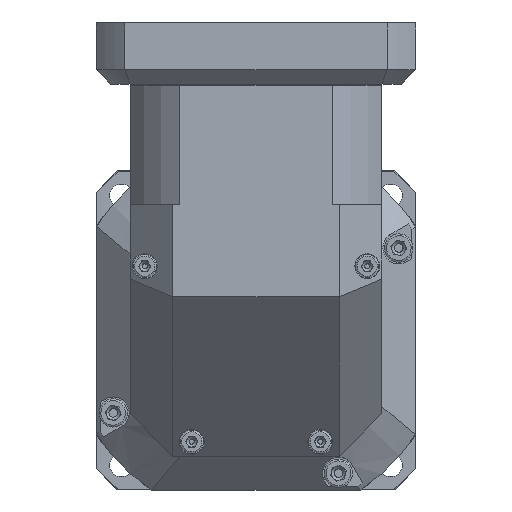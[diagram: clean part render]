
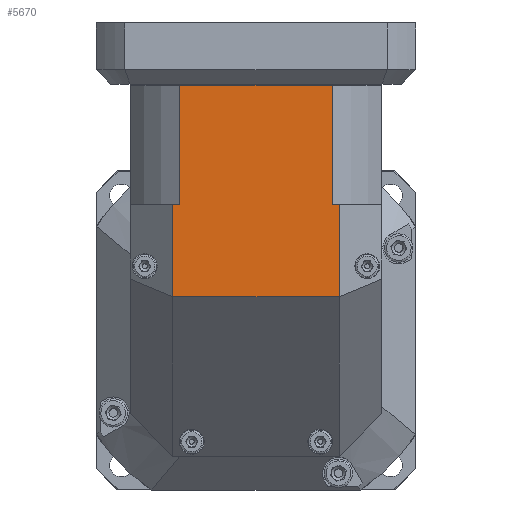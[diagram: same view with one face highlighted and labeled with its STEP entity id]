
A CAD part, front view. The second image highlights one B-rep face of the part: STEP entity #5670.
In plain terms, the highlighted planar face has unit normal (0, -1, 0).
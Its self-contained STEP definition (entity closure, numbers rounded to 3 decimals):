
#5599=CARTESIAN_POINT('',(-71.0,-71.0,138.5));
#5600=DIRECTION('',(0.0,-1.0,0.0));
#5601=DIRECTION('',(0.0,0.0,-1.0));
#5602=AXIS2_PLACEMENT_3D('',#5599,#5600,#5601);
#5603=PLANE('',#5602);
#5604=CARTESIAN_POINT('',(42.988,-71.0,71.));
#5605=VERTEX_POINT('',#5604);
#5606=CARTESIAN_POINT('',(42.988,-71.0,138.2));
#5607=VERTEX_POINT('',#5606);
#5608=CARTESIAN_POINT('',(42.988,-71.0,71.));
#5609=DIRECTION('',(0.0,0.0,1.0));
#5610=VECTOR('',#5609,67.2);
#5611=LINE('',#5608,#5610);
#5612=EDGE_CURVE('',#5605,#5607,#5611,.T.);
#5613=ORIENTED_EDGE('',*,*,#5612,.T.);
#5614=CARTESIAN_POINT('',(-42.988,-71.0,138.2));
#5615=VERTEX_POINT('',#5614);
#5616=CARTESIAN_POINT('',(42.988,-71.0,138.2));
#5617=DIRECTION('',(-1.0,0.0,0.0));
#5618=VECTOR('',#5617,85.977);
#5619=LINE('',#5616,#5618);
#5620=EDGE_CURVE('',#5607,#5615,#5619,.T.);
#5621=ORIENTED_EDGE('',*,*,#5620,.T.);
#5622=CARTESIAN_POINT('',(-42.988,-71.0,71.));
#5623=VERTEX_POINT('',#5622);
#5624=CARTESIAN_POINT('',(-42.988,-71.0,71.));
#5625=DIRECTION('',(0.0,0.0,1.0));
#5626=VECTOR('',#5625,67.2);
#5627=LINE('',#5624,#5626);
#5628=EDGE_CURVE('',#5623,#5615,#5627,.T.);
#5629=ORIENTED_EDGE('',*,*,#5628,.F.);
#5630=CARTESIAN_POINT('',(-47.,-71.,71.));
#5631=VERTEX_POINT('',#5630);
#5632=CARTESIAN_POINT('',(-42.988,-71.0,71.));
#5633=DIRECTION('',(-1.0,0.0,0.0));
#5634=VECTOR('',#5633,4.012);
#5635=LINE('',#5632,#5634);
#5636=EDGE_CURVE('',#5623,#5631,#5635,.T.);
#5637=ORIENTED_EDGE('',*,*,#5636,.T.);
#5638=CARTESIAN_POINT('',(-47.,-71.0,19.));
#5639=VERTEX_POINT('',#5638);
#5640=CARTESIAN_POINT('',(-47.,-71.0,71.));
#5641=DIRECTION('',(0.0,0.0,-1.0));
#5642=VECTOR('',#5641,52.);
#5643=LINE('',#5640,#5642);
#5644=EDGE_CURVE('',#5631,#5639,#5643,.T.);
#5645=ORIENTED_EDGE('',*,*,#5644,.T.);
#5646=CARTESIAN_POINT('',(47.,-71.0,19.));
#5647=VERTEX_POINT('',#5646);
#5648=CARTESIAN_POINT('',(-47.,-71.0,19.));
#5649=DIRECTION('',(1.0,0.0,0.0));
#5650=VECTOR('',#5649,94.);
#5651=LINE('',#5648,#5650);
#5652=EDGE_CURVE('',#5639,#5647,#5651,.T.);
#5653=ORIENTED_EDGE('',*,*,#5652,.T.);
#5654=CARTESIAN_POINT('',(47.,-71.0,71.));
#5655=VERTEX_POINT('',#5654);
#5656=CARTESIAN_POINT('',(47.,-71.0,19.));
#5657=DIRECTION('',(0.0,0.0,1.0));
#5658=VECTOR('',#5657,52.);
#5659=LINE('',#5656,#5658);
#5660=EDGE_CURVE('',#5647,#5655,#5659,.T.);
#5661=ORIENTED_EDGE('',*,*,#5660,.T.);
#5662=CARTESIAN_POINT('',(47.,-71.0,71.));
#5663=DIRECTION('',(-1.0,0.0,0.0));
#5664=VECTOR('',#5663,4.012);
#5665=LINE('',#5662,#5664);
#5666=EDGE_CURVE('',#5655,#5605,#5665,.T.);
#5667=ORIENTED_EDGE('',*,*,#5666,.T.);
#5668=EDGE_LOOP('',(#5613,#5621,#5629,#5637,#5645,#5653,#5661,#5667));
#5669=FACE_OUTER_BOUND('',#5668,.T.);
#5670=ADVANCED_FACE('',(#5669),#5603,.T.);
